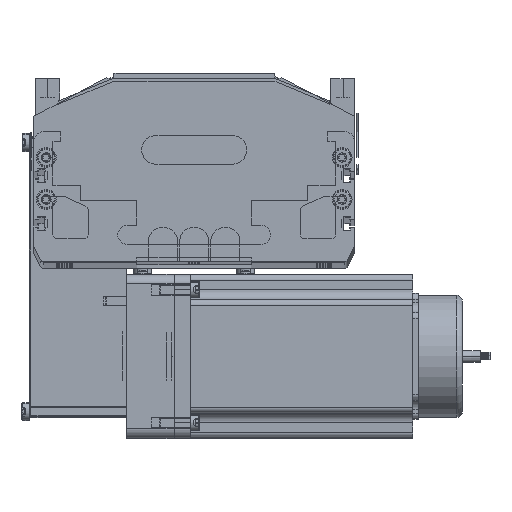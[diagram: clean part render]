
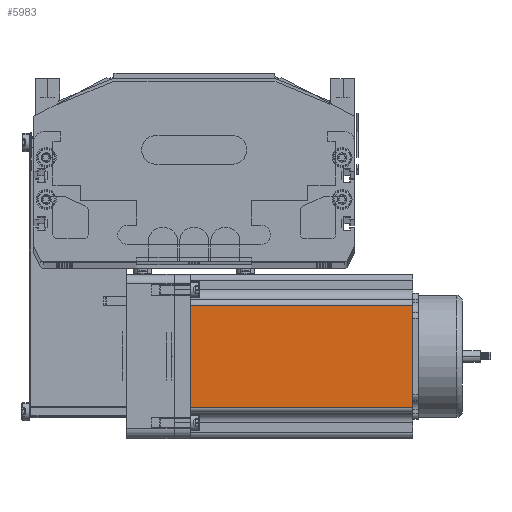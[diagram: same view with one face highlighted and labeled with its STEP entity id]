
A CAD part, top view. The second image highlights one B-rep face of the part: STEP entity #5983.
In plain terms, the highlighted planar face has unit normal (0, 0, 1) as drawn and (0, -1, 0) by its records, which use the part's own axes.
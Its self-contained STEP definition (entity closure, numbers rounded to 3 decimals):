
#5206 = EDGE_CURVE ( 'NONE', #5984, #5935, #42475, .T. ) ;
#5214 = ORIENTED_EDGE ( 'NONE', *, *, #5206, .F. ) ;
#5215 = EDGE_CURVE ( 'NONE', #5984, #6213, #42485, .T. ) ;
#5807 = EDGE_CURVE ( 'NONE', #6214, #5935, #42933, .T. ) ;
#5935 = VERTEX_POINT ( 'NONE', #43274 ) ;
#5983 = ADVANCED_FACE ( 'NONE', ( #43224 ), #43218, .F. ) ;
#5984 = VERTEX_POINT ( 'NONE', #43271 ) ;
#5986 = ORIENTED_EDGE ( 'NONE', *, *, #5807, .T. ) ;
#6212 = EDGE_LOOP ( 'NONE', ( #6234, #5986, #5214, #6266 ) ) ;
#6213 = VERTEX_POINT ( 'NONE', #43406 ) ;
#6214 = VERTEX_POINT ( 'NONE', #43397 ) ;
#6234 = ORIENTED_EDGE ( 'NONE', *, *, #6248, .T. ) ;
#6248 = EDGE_CURVE ( 'NONE', #6213, #6214, #43351, .T. ) ;
#6266 = ORIENTED_EDGE ( 'NONE', *, *, #5215, .T. ) ;
#42460 = DIRECTION ( 'NONE',  ( 0., 0., -1. ) ) ;
#42461 = VECTOR ( 'NONE', #42460, 1000. ) ;
#42469 = DIRECTION ( 'NONE',  ( 1., 0., 0. ) ) ;
#42470 = VECTOR ( 'NONE', #42469, 1000. ) ;
#42471 = CARTESIAN_POINT ( 'NONE',  ( 0., 0., 116.5 ) ) ;
#42475 = LINE ( 'NONE', #42471, #42470 ) ;
#42485 = LINE ( 'NONE', #42486, #42461 ) ;
#42486 = CARTESIAN_POINT ( 'NONE',  ( 16.16, 0., 116.5 ) ) ;
#42930 = DIRECTION ( 'NONE',  ( 0., 0., 1. ) ) ;
#42931 = VECTOR ( 'NONE', #42930, 1000. ) ;
#42932 = CARTESIAN_POINT ( 'NONE',  ( 69.74, 0., 116.5 ) ) ;
#42933 = LINE ( 'NONE', #42932, #42931 ) ;
#43205 = DIRECTION ( 'NONE',  ( 0., 0., 1. ) ) ;
#43206 = DIRECTION ( 'NONE',  ( 0., 1., 0. ) ) ;
#43207 = CARTESIAN_POINT ( 'NONE',  ( 0., 0., 116.5 ) ) ;
#43218 = PLANE ( 'NONE',  #43223 ) ;
#43223 = AXIS2_PLACEMENT_3D ( 'NONE', #43207, #43206, #43205 ) ;
#43224 = FACE_OUTER_BOUND ( 'NONE', #6212, .T. ) ;
#43271 = CARTESIAN_POINT ( 'NONE',  ( 16.16, 0., 116.5 ) ) ;
#43274 = CARTESIAN_POINT ( 'NONE',  ( 69.74, 0., 116.5 ) ) ;
#43348 = DIRECTION ( 'NONE',  ( 1., 0., 0. ) ) ;
#43349 = VECTOR ( 'NONE', #43348, 1000. ) ;
#43350 = CARTESIAN_POINT ( 'NONE',  ( 0., 0., 0. ) ) ;
#43351 = LINE ( 'NONE', #43350, #43349 ) ;
#43397 = CARTESIAN_POINT ( 'NONE',  ( 69.74, 0., 0. ) ) ;
#43406 = CARTESIAN_POINT ( 'NONE',  ( 16.16, 0., 0. ) ) ;
